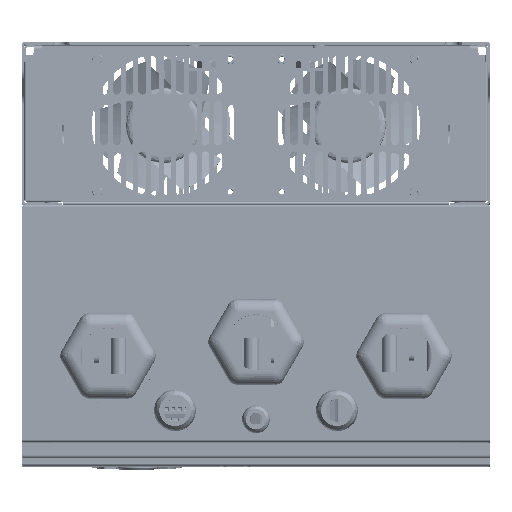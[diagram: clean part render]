
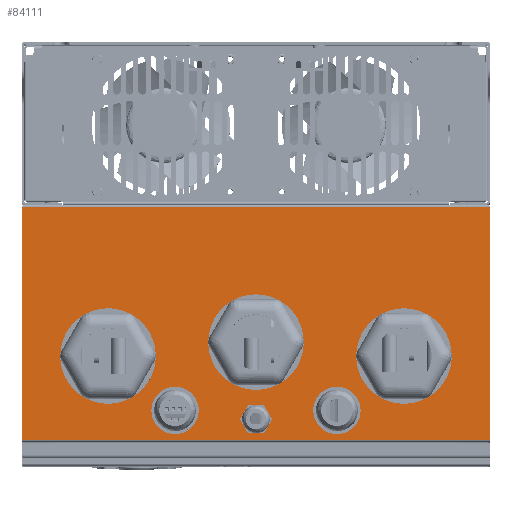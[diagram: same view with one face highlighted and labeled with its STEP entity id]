
A CAD part, top view. The second image highlights one B-rep face of the part: STEP entity #84111.
In plain terms, the highlighted planar face has unit normal (0, 0, 1) as drawn and (-1, 0, 0) by its records, which use the part's own axes.
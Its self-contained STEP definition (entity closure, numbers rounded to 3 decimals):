
#75077=CARTESIAN_POINT('',(-395.2,2.,-185.));
#75079=DIRECTION('',(0.,0.,1.));
#75080=VECTOR('',#75079,370.);
#75081=CARTESIAN_POINT('',(-395.2,2.,-185.));
#75082=LINE('',#75081,#75080);
#75083=CARTESIAN_POINT('',(-395.2,2.,185.));
#75483=DIRECTION('',(0.,0.,-1.));
#75484=VECTOR('',#75483,370.);
#75485=CARTESIAN_POINT('',(-395.2,185.8,185.));
#75486=LINE('',#75485,#75484);
#75487=DIRECTION('',(0.,1.,0.));
#75488=VECTOR('',#75487,183.8);
#75489=CARTESIAN_POINT('',(-395.2,2.,-185.));
#75490=LINE('',#75489,#75488);
#75491=DIRECTION('',(0.,-1.,0.));
#75492=VECTOR('',#75491,183.8);
#75493=CARTESIAN_POINT('',(-395.2,185.8,185.));
#75494=LINE('',#75493,#75492);
#75495=CARTESIAN_POINT('',(-395.2,119.782,117.));
#75496=DIRECTION('',(-1.,0.,0.));
#75497=DIRECTION('',(0.,0.,-1.));
#75498=AXIS2_PLACEMENT_3D('',#75495,#75496,#75497);
#75500=CARTESIAN_POINT('',(-395.2,119.782,117.));
#75501=DIRECTION('',(-1.,0.,0.));
#75502=DIRECTION('',(0.,0.,1.));
#75503=AXIS2_PLACEMENT_3D('',#75500,#75501,#75502);
#75505=CARTESIAN_POINT('',(-395.2,108.8,0.));
#75506=DIRECTION('',(-1.,0.,0.));
#75507=DIRECTION('',(0.,0.,-1.));
#75508=AXIS2_PLACEMENT_3D('',#75505,#75506,#75507);
#75510=CARTESIAN_POINT('',(-395.2,108.8,0.));
#75511=DIRECTION('',(-1.,0.,0.));
#75512=DIRECTION('',(0.,0.,1.));
#75513=AXIS2_PLACEMENT_3D('',#75510,#75511,#75512);
#75515=CARTESIAN_POINT('',(-395.2,119.8,-117.));
#75516=DIRECTION('',(-1.,0.,0.));
#75517=DIRECTION('',(0.,0.,-1.));
#75518=AXIS2_PLACEMENT_3D('',#75515,#75516,#75517);
#75520=CARTESIAN_POINT('',(-395.2,119.8,-117.));
#75521=DIRECTION('',(-1.,0.,0.));
#75522=DIRECTION('',(0.,0.,1.));
#75523=AXIS2_PLACEMENT_3D('',#75520,#75521,#75522);
#75525=CARTESIAN_POINT('',(-395.2,162.8,64.));
#75526=DIRECTION('',(-1.,0.,0.));
#75527=DIRECTION('',(0.,0.,-1.));
#75528=AXIS2_PLACEMENT_3D('',#75525,#75526,#75527);
#75530=CARTESIAN_POINT('',(-395.2,162.8,64.));
#75531=DIRECTION('',(-1.,0.,0.));
#75532=DIRECTION('',(0.,0.,1.));
#75533=AXIS2_PLACEMENT_3D('',#75530,#75531,#75532);
#75535=CARTESIAN_POINT('',(-395.2,169.8,0.));
#75536=DIRECTION('',(-1.,0.,0.));
#75537=DIRECTION('',(0.,0.,-1.));
#75538=AXIS2_PLACEMENT_3D('',#75535,#75536,#75537);
#75540=CARTESIAN_POINT('',(-395.2,169.8,0.));
#75541=DIRECTION('',(-1.,0.,0.));
#75542=DIRECTION('',(0.,0.,1.));
#75543=AXIS2_PLACEMENT_3D('',#75540,#75541,#75542);
#75545=CARTESIAN_POINT('',(-395.2,162.8,-64.));
#75546=DIRECTION('',(-1.,0.,0.));
#75547=DIRECTION('',(0.,0.,-1.));
#75548=AXIS2_PLACEMENT_3D('',#75545,#75546,#75547);
#75550=CARTESIAN_POINT('',(-395.2,162.8,-64.));
#75551=DIRECTION('',(-1.,0.,0.));
#75552=DIRECTION('',(0.,0.,1.));
#75553=AXIS2_PLACEMENT_3D('',#75550,#75551,#75552);
#80592=VERTEX_POINT('',#75083);
#80597=VERTEX_POINT('',#75077);
#80711=CARTESIAN_POINT('',(-395.2,185.8,185.));
#80712=VERTEX_POINT('',#80711);
#80713=CARTESIAN_POINT('',(-395.2,185.8,-185.));
#80714=VERTEX_POINT('',#80713);
#80715=CARTESIAN_POINT('',(-395.2,119.782,85.25));
#80716=CARTESIAN_POINT('',(-395.2,119.782,148.75));
#80717=VERTEX_POINT('',#80715);
#80718=VERTEX_POINT('',#80716);
#80719=CARTESIAN_POINT('',(-395.2,108.8,-31.75));
#80720=CARTESIAN_POINT('',(-395.2,108.8,31.75));
#80721=VERTEX_POINT('',#80719);
#80722=VERTEX_POINT('',#80720);
#80723=CARTESIAN_POINT('',(-395.2,119.8,-148.75));
#80724=CARTESIAN_POINT('',(-395.2,119.8,-85.25));
#80725=VERTEX_POINT('',#80723);
#80726=VERTEX_POINT('',#80724);
#80727=CARTESIAN_POINT('',(-395.2,162.8,51.25));
#80728=CARTESIAN_POINT('',(-395.2,162.8,76.75));
#80729=VERTEX_POINT('',#80727);
#80730=VERTEX_POINT('',#80728);
#80731=CARTESIAN_POINT('',(-395.2,169.8,-8.25));
#80732=CARTESIAN_POINT('',(-395.2,169.8,8.25));
#80733=VERTEX_POINT('',#80731);
#80734=VERTEX_POINT('',#80732);
#80735=CARTESIAN_POINT('',(-395.2,162.8,-76.75));
#80736=CARTESIAN_POINT('',(-395.2,162.8,-51.25));
#80737=VERTEX_POINT('',#80735);
#80738=VERTEX_POINT('',#80736);
#84062=CARTESIAN_POINT('',(-395.2,0.,183.5));
#84063=DIRECTION('',(-1.,0.,0.));
#84064=DIRECTION('',(0.,0.,1.));
#84065=AXIS2_PLACEMENT_3D('',#84062,#84063,#84064);
#84066=PLANE('',#84065);
#84067=ORIENTED_EDGE('',*,*,#83465,.F.);
#84069=ORIENTED_EDGE('',*,*,#84068,.T.);
#84070=ORIENTED_EDGE('',*,*,#84055,.F.);
#84072=ORIENTED_EDGE('',*,*,#84071,.T.);
#84073=EDGE_LOOP('',(#84067,#84069,#84070,#84072));
#84074=FACE_OUTER_BOUND('',#84073,.F.);
#84076=ORIENTED_EDGE('',*,*,#84075,.T.);
#84078=ORIENTED_EDGE('',*,*,#84077,.T.);
#84079=EDGE_LOOP('',(#84076,#84078));
#84080=FACE_BOUND('',#84079,.F.);
#84082=ORIENTED_EDGE('',*,*,#84081,.T.);
#84084=ORIENTED_EDGE('',*,*,#84083,.T.);
#84085=EDGE_LOOP('',(#84082,#84084));
#84086=FACE_BOUND('',#84085,.F.);
#84088=ORIENTED_EDGE('',*,*,#84087,.T.);
#84090=ORIENTED_EDGE('',*,*,#84089,.T.);
#84091=EDGE_LOOP('',(#84088,#84090));
#84092=FACE_BOUND('',#84091,.F.);
#84094=ORIENTED_EDGE('',*,*,#84093,.T.);
#84096=ORIENTED_EDGE('',*,*,#84095,.T.);
#84097=EDGE_LOOP('',(#84094,#84096));
#84098=FACE_BOUND('',#84097,.F.);
#84100=ORIENTED_EDGE('',*,*,#84099,.T.);
#84102=ORIENTED_EDGE('',*,*,#84101,.T.);
#84103=EDGE_LOOP('',(#84100,#84102));
#84104=FACE_BOUND('',#84103,.F.);
#84106=ORIENTED_EDGE('',*,*,#84105,.T.);
#84108=ORIENTED_EDGE('',*,*,#84107,.T.);
#84109=EDGE_LOOP('',(#84106,#84108));
#84110=FACE_BOUND('',#84109,.F.);
#84111=ADVANCED_FACE('',(#84074,#84080,#84086,#84092,#84098,#84104,#84110),
#84066,.T.);
#75499=CIRCLE('',#75498,31.75);
#75504=CIRCLE('',#75503,31.75);
#75509=CIRCLE('',#75508,31.75);
#75514=CIRCLE('',#75513,31.75);
#75519=CIRCLE('',#75518,31.75);
#75524=CIRCLE('',#75523,31.75);
#75529=CIRCLE('',#75528,12.75);
#75534=CIRCLE('',#75533,12.75);
#75539=CIRCLE('',#75538,8.25);
#75544=CIRCLE('',#75543,8.25);
#75549=CIRCLE('',#75548,12.75);
#75554=CIRCLE('',#75553,12.75);
#83465=EDGE_CURVE('',#80597,#80592,#75082,.T.);
#84055=EDGE_CURVE('',#80712,#80714,#75486,.T.);
#84068=EDGE_CURVE('',#80597,#80714,#75490,.T.);
#84071=EDGE_CURVE('',#80712,#80592,#75494,.T.);
#84075=EDGE_CURVE('',#80717,#80718,#75499,.T.);
#84077=EDGE_CURVE('',#80718,#80717,#75504,.T.);
#84081=EDGE_CURVE('',#80721,#80722,#75509,.T.);
#84083=EDGE_CURVE('',#80722,#80721,#75514,.T.);
#84087=EDGE_CURVE('',#80725,#80726,#75519,.T.);
#84089=EDGE_CURVE('',#80726,#80725,#75524,.T.);
#84093=EDGE_CURVE('',#80729,#80730,#75529,.T.);
#84095=EDGE_CURVE('',#80730,#80729,#75534,.T.);
#84099=EDGE_CURVE('',#80733,#80734,#75539,.T.);
#84101=EDGE_CURVE('',#80734,#80733,#75544,.T.);
#84105=EDGE_CURVE('',#80737,#80738,#75549,.T.);
#84107=EDGE_CURVE('',#80738,#80737,#75554,.T.);
